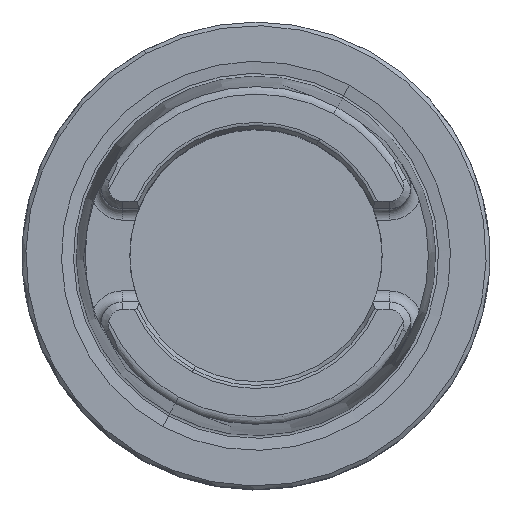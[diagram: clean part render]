
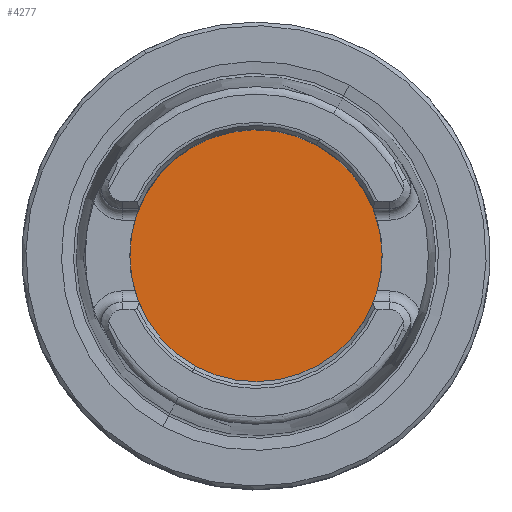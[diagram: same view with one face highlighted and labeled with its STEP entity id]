
A CAD part, top view. The second image highlights one B-rep face of the part: STEP entity #4277.
In plain terms, the highlighted planar face has unit normal (0, 0, 1).
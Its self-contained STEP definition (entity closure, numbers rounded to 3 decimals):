
#3850=AXIS2_PLACEMENT_3D('Circle Axis2P3D',#3848,#3849,$) ;
#4053=AXIS2_PLACEMENT_3D('Circle Axis2P3D',#4051,#4052,$) ;
#4271=AXIS2_PLACEMENT_3D('Plane Axis2P3D',#4268,#4269,#4270) ;
#3845=CARTESIAN_POINT('Vertex',(-8.15,-14.919,-10.)) ;
#3848=CARTESIAN_POINT('Axis2P3D Location',(0.,0.,-10.)) ;
#3852=CARTESIAN_POINT('Vertex',(8.15,14.919,-10.)) ;
#4051=CARTESIAN_POINT('Axis2P3D Location',(0.,0.,-10.)) ;
#4268=CARTESIAN_POINT('Axis2P3D Location',(0.,-15.75,-10.)) ;
#3849=DIRECTION('Axis2P3D Direction',(0.,0.,-1.)) ;
#4052=DIRECTION('Axis2P3D Direction',(0.,0.,-1.)) ;
#4269=DIRECTION('Axis2P3D Direction',(0.,0.,-1.)) ;
#4270=DIRECTION('Axis2P3D XDirection',(-1.,0.,0.)) ;
#4274=ORIENTED_EDGE('',*,*,#4055,.F.) ;
#4275=ORIENTED_EDGE('',*,*,#3854,.F.) ;
#4277=ADVANCED_FACE('NO_CUT',(#4276),#4272,.F.) ;
#3851=CIRCLE('generated circle',#3850,17.) ;
#4054=CIRCLE('generated circle',#4053,17.) ;
#3854=EDGE_CURVE('',#3846,#3853,#3851,.T.) ;
#4055=EDGE_CURVE('',#3853,#3846,#4054,.T.) ;
#4273=EDGE_LOOP('',(#4274,#4275)) ;
#4276=FACE_OUTER_BOUND('',#4273,.T.) ;
#4272=PLANE('',#4271) ;
#3846=VERTEX_POINT('',#3845) ;
#3853=VERTEX_POINT('',#3852) ;
